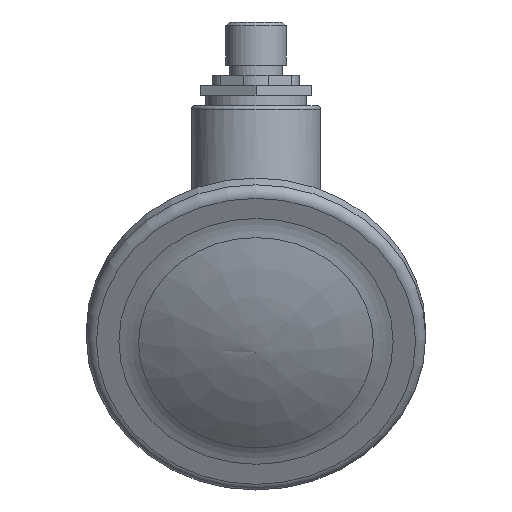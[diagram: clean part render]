
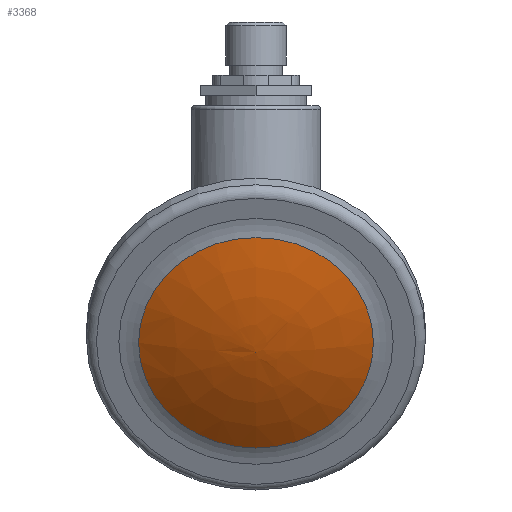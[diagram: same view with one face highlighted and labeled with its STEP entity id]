
A CAD part, left-side view. The second image highlights one B-rep face of the part: STEP entity #3368.
In plain terms, the highlighted free-form (B-spline) face has degree [3, 3] with [5, 19] control points.
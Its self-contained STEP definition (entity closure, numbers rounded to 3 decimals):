
#19=B_SPLINE_SURFACE_WITH_KNOTS('',3,3,((#6546,#6547,#6548,#6549,#6550,
#6551,#6552,#6553,#6554,#6555,#6556,#6557,#6558,#6559,#6560,#6561,#6562,
#6563,#6564),(#6565,#6566,#6567,#6568,#6569,#6570,#6571,#6572,#6573,#6574,
#6575,#6576,#6577,#6578,#6579,#6580,#6581,#6582,#6583),(#6584,#6585,#6586,
#6587,#6588,#6589,#6590,#6591,#6592,#6593,#6594,#6595,#6596,#6597,#6598,
#6599,#6600,#6601,#6602),(#6603,#6604,#6605,#6606,#6607,#6608,#6609,#6610,
#6611,#6612,#6613,#6614,#6615,#6616,#6617,#6618,#6619,#6620,#6621),(#6622,
#6623,#6624,#6625,#6626,#6627,#6628,#6629,#6630,#6631,#6632,#6633,#6634,
#6635,#6636,#6637,#6638,#6639,#6640)),.UNSPECIFIED.,.F.,.T.,.F.,(4,1,4),
(1,1,1,1,1,1,1,1,1,1,1,1,1,1,1,1,1,1,1,1,1,1,1),(0.,0.49,0.98),
(-1.178,-0.785,-0.393,0.,0.393,
0.785,1.178,1.571,1.963,2.356,
2.749,3.142,3.534,3.927,4.32,
4.712,5.105,5.498,5.89,6.283,
6.676,7.069,7.461),.UNSPECIFIED.);
#132=VERTEX_LOOP('',#1437);
#921=ORIENTED_EDGE('',*,*,#1220,.T.);
#1220=EDGE_CURVE('',#1438,#1438,#1580,.T.);
#1437=VERTEX_POINT('',#6641);
#1438=VERTEX_POINT('',#6643);
#1580=CIRCLE('',#3659,23.177);
#1812=EDGE_LOOP('',(#921));
#2052=FACE_BOUND('',#132,.T.);
#2053=FACE_BOUND('',#1812,.T.);
#3368=ADVANCED_FACE('',(#2052,#2053),#19,.F.);
#3659=AXIS2_PLACEMENT_3D('',#6642,#4299,#4300);
#4299=DIRECTION('',(-0.896,0.,-0.444));
#4300=DIRECTION('',(0.444,0.,-0.896));
#6546=CARTESIAN_POINT('',(-42.546,0.,-5.716));
#6547=CARTESIAN_POINT('',(-42.546,0.,-5.716));
#6548=CARTESIAN_POINT('',(-42.546,0.,-5.716));
#6549=CARTESIAN_POINT('',(-42.546,0.,-5.716));
#6550=CARTESIAN_POINT('',(-42.546,0.,-5.716));
#6551=CARTESIAN_POINT('',(-42.546,0.,-5.716));
#6552=CARTESIAN_POINT('',(-42.546,0.,-5.716));
#6553=CARTESIAN_POINT('',(-42.546,0.,-5.716));
#6554=CARTESIAN_POINT('',(-42.546,0.,-5.716));
#6555=CARTESIAN_POINT('',(-42.546,0.,-5.716));
#6556=CARTESIAN_POINT('',(-42.546,0.,-5.716));
#6557=CARTESIAN_POINT('',(-42.546,0.,-5.716));
#6558=CARTESIAN_POINT('',(-42.546,0.,-5.716));
#6559=CARTESIAN_POINT('',(-42.546,0.,-5.716));
#6560=CARTESIAN_POINT('',(-42.546,0.,-5.716));
#6561=CARTESIAN_POINT('',(-42.546,0.,-5.716));
#6562=CARTESIAN_POINT('',(-42.546,0.,-5.716));
#6563=CARTESIAN_POINT('',(-42.546,0.,-5.716));
#6564=CARTESIAN_POINT('',(-42.546,0.,-5.716));
#6565=CARTESIAN_POINT('',(-41.758,3.72,-7.045));
#6566=CARTESIAN_POINT('',(-42.441,4.026,-5.664));
#6567=CARTESIAN_POINT('',(-43.125,3.72,-4.283));
#6568=CARTESIAN_POINT('',(-43.705,2.847,-3.113));
#6569=CARTESIAN_POINT('',(-44.092,1.541,-2.331));
#6570=CARTESIAN_POINT('',(-44.228,0.,-2.056));
#6571=CARTESIAN_POINT('',(-44.092,-1.541,-2.331));
#6572=CARTESIAN_POINT('',(-43.705,-2.847,-3.113));
#6573=CARTESIAN_POINT('',(-43.125,-3.72,-4.283));
#6574=CARTESIAN_POINT('',(-42.441,-4.026,-5.664));
#6575=CARTESIAN_POINT('',(-41.758,-3.72,-7.045));
#6576=CARTESIAN_POINT('',(-41.178,-2.847,-8.215));
#6577=CARTESIAN_POINT('',(-40.791,-1.541,-8.998));
#6578=CARTESIAN_POINT('',(-40.655,0.,-9.272));
#6579=CARTESIAN_POINT('',(-40.791,1.541,-8.998));
#6580=CARTESIAN_POINT('',(-41.178,2.847,-8.215));
#6581=CARTESIAN_POINT('',(-41.758,3.72,-7.045));
#6582=CARTESIAN_POINT('',(-42.441,4.026,-5.664));
#6583=CARTESIAN_POINT('',(-43.125,3.72,-4.283));
#6584=CARTESIAN_POINT('',(-39.642,11.186,-9.448));
#6585=CARTESIAN_POINT('',(-41.698,12.107,-5.296));
#6586=CARTESIAN_POINT('',(-43.753,11.186,-1.144));
#6587=CARTESIAN_POINT('',(-45.496,8.561,2.376));
#6588=CARTESIAN_POINT('',(-46.66,4.633,4.728));
#6589=CARTESIAN_POINT('',(-47.069,0.,5.554));
#6590=CARTESIAN_POINT('',(-46.66,-4.633,4.728));
#6591=CARTESIAN_POINT('',(-45.496,-8.561,2.376));
#6592=CARTESIAN_POINT('',(-43.753,-11.186,-1.144));
#6593=CARTESIAN_POINT('',(-41.698,-12.107,-5.296));
#6594=CARTESIAN_POINT('',(-39.642,-11.186,-9.448));
#6595=CARTESIAN_POINT('',(-37.9,-8.561,-12.968));
#6596=CARTESIAN_POINT('',(-36.735,-4.633,-15.32));
#6597=CARTESIAN_POINT('',(-36.326,0.,-16.146));
#6598=CARTESIAN_POINT('',(-36.735,4.633,-15.32));
#6599=CARTESIAN_POINT('',(-37.9,8.561,-12.968));
#6600=CARTESIAN_POINT('',(-39.642,11.186,-9.448));
#6601=CARTESIAN_POINT('',(-41.698,12.107,-5.296));
#6602=CARTESIAN_POINT('',(-43.753,11.186,-1.144));
#6603=CARTESIAN_POINT('',(-36.509,18.45,-11.254));
#6604=CARTESIAN_POINT('',(-39.899,19.97,-4.406));
#6605=CARTESIAN_POINT('',(-43.29,18.45,2.443));
#6606=CARTESIAN_POINT('',(-46.164,14.121,8.249));
#6607=CARTESIAN_POINT('',(-48.085,7.642,12.129));
#6608=CARTESIAN_POINT('',(-48.759,0.,13.491));
#6609=CARTESIAN_POINT('',(-48.085,-7.642,12.129));
#6610=CARTESIAN_POINT('',(-46.164,-14.121,8.249));
#6611=CARTESIAN_POINT('',(-43.29,-18.45,2.443));
#6612=CARTESIAN_POINT('',(-39.899,-19.97,-4.406));
#6613=CARTESIAN_POINT('',(-36.509,-18.45,-11.254));
#6614=CARTESIAN_POINT('',(-33.634,-14.121,-17.06));
#6615=CARTESIAN_POINT('',(-31.714,-7.642,-20.94));
#6616=CARTESIAN_POINT('',(-31.039,0.,-22.302));
#6617=CARTESIAN_POINT('',(-31.714,7.642,-20.94));
#6618=CARTESIAN_POINT('',(-33.634,14.121,-17.06));
#6619=CARTESIAN_POINT('',(-36.509,18.45,-11.254));
#6620=CARTESIAN_POINT('',(-39.899,19.97,-4.406));
#6621=CARTESIAN_POINT('',(-43.29,18.45,2.443));
#6622=CARTESIAN_POINT('',(-34.717,21.97,-11.994));
#6623=CARTESIAN_POINT('',(-38.754,23.78,-3.839));
#6624=CARTESIAN_POINT('',(-42.792,21.97,4.317));
#6625=CARTESIAN_POINT('',(-46.214,16.815,11.231));
#6626=CARTESIAN_POINT('',(-48.501,9.1,15.851));
#6627=CARTESIAN_POINT('',(-49.304,0.,17.473));
#6628=CARTESIAN_POINT('',(-48.501,-9.1,15.851));
#6629=CARTESIAN_POINT('',(-46.214,-16.815,11.231));
#6630=CARTESIAN_POINT('',(-42.792,-21.97,4.317));
#6631=CARTESIAN_POINT('',(-38.754,-23.78,-3.839));
#6632=CARTESIAN_POINT('',(-34.717,-21.97,-11.994));
#6633=CARTESIAN_POINT('',(-31.294,-16.815,-18.908));
#6634=CARTESIAN_POINT('',(-29.007,-9.1,-23.528));
#6635=CARTESIAN_POINT('',(-28.204,0.,-25.15));
#6636=CARTESIAN_POINT('',(-29.007,9.1,-23.528));
#6637=CARTESIAN_POINT('',(-31.294,16.815,-18.908));
#6638=CARTESIAN_POINT('',(-34.717,21.97,-11.994));
#6639=CARTESIAN_POINT('',(-38.754,23.78,-3.839));
#6640=CARTESIAN_POINT('',(-42.792,21.97,4.317));
#6641=CARTESIAN_POINT('',(-42.546,0.,-5.716));
#6642=CARTESIAN_POINT('',(-38.754,0.,-3.839));
#6643=CARTESIAN_POINT('',(-28.471,0.,-24.61));
